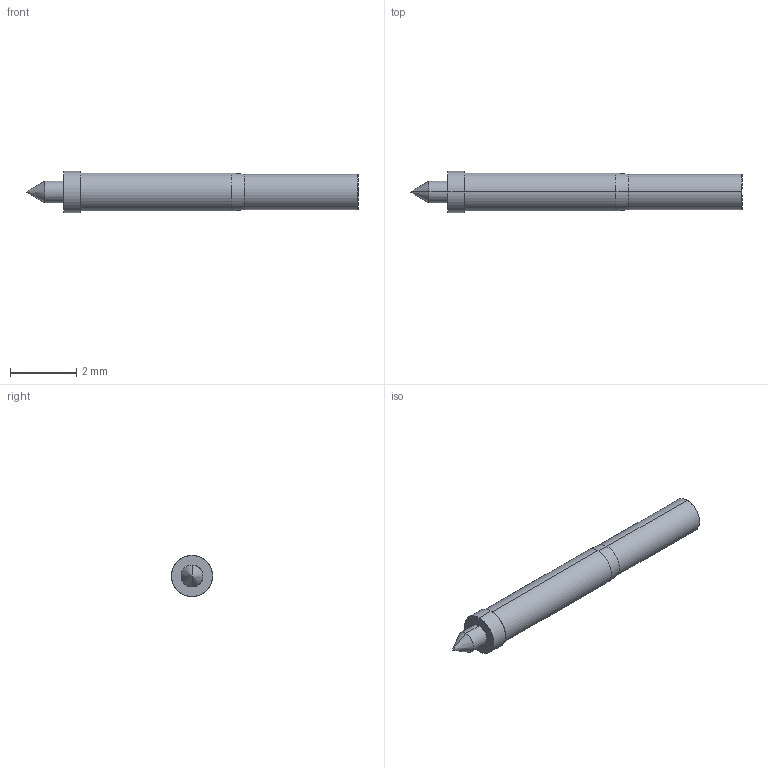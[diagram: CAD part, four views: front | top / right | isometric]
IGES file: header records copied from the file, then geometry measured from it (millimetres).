
Start section: SolidWorks IGES file using analytic representation for surfaces
Global section: file name: O:\PYLON\IGES FILES\C-S\C-S-C.IGS; native system: SolidWorks 2015; preprocessor: SolidWorks 2015; author: kgolden; date: 171024.080523; units: inch
Bounding box: 10.03 x 1.24 x 1.24 mm (x, y, z)
Surface area: 39.4 mm2 (no closed solid volume)
Topology: 0 solids, 0 shells, 18 faces, 168 edges, 166 vertices
Faces by surface type: revolution 14, bspline 4
